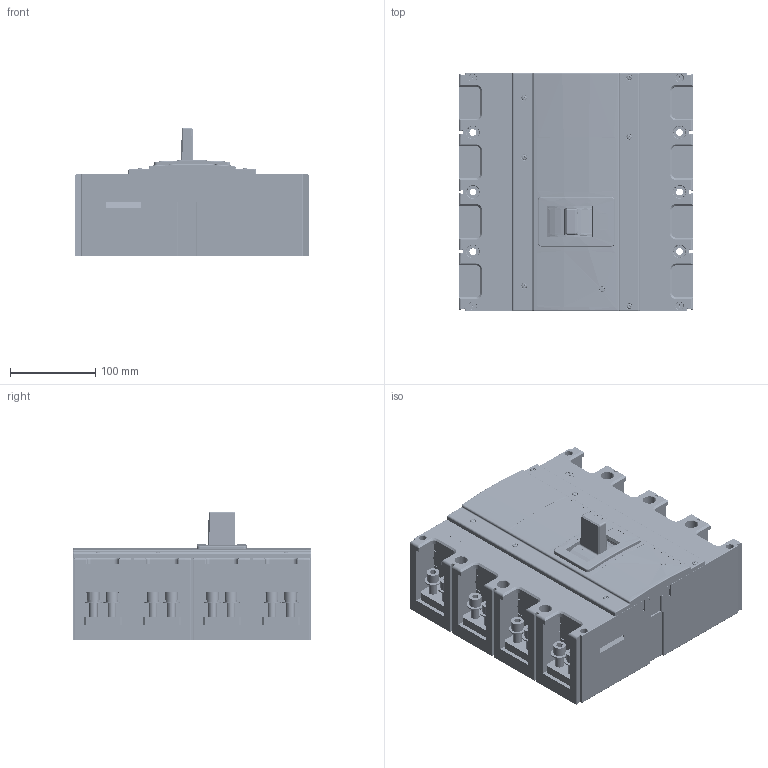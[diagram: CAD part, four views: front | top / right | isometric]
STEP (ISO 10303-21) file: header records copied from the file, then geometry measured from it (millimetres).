
FILE_DESCRIPTION(/* description */ (''),/* implementation_level */ '2;1');
FILE_NAME(/* name */ 'model1.stp',/* time_stamp */ '2024-02-21T13:26:25+08:00',/* author */ (''),/* organization */ (''),/* preprocessor_version */ 'ST-DEVELOPER v11',/* originating_system */ 'SIEMENS UGS NX 6.0',/* authorisation */ '');
FILE_SCHEMA (('CONFIG_CONTROL_DESIGN'));
Products named in the file (1): Admi1C706xpx
Bounding box: 275.5 x 280 x 151.31 mm (x, y, z)
Volume: 4166238.7 mm3; surface area: 1062928.2 mm2
Topology: 88 solids, 123 shells, 6231 faces, 16702 edges, 10920 vertices
Faces by surface type: plane 4013, cylinder 1618, torus 177, bspline 168, cone 118, extrusion 105, sphere 30, revolution 2
Full cylindrical faces by diameter (mm): 2.659 x5, 3 x7, 3.15 x6, 3.354 x126, 3.4 x2, 3.5 x14, 4 x5, 4.2 x24, 4.48 x4, 4.6 x10, 5 x12, 5.1 x4, 5.3 x16, 5.5 x33, 5.8 x2, 5.85 x12, 6 x3, 6.2 x9, 6.3 x1, 6.5 x6, 6.6 x1, 7 x58, 7.4 x1, 7.5 x22, 8 x7, 8.2 x8, 8.4 x8, 8.5 x4, 8.6 x4, 8.64 x1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
Entity records: 284505 total; most frequent: CARTESIAN_POINT 135206, ORIENTED_EDGE 30880, DIRECTION 29726, EDGE_CURVE 15440, VECTOR 10690, LINE 10585, VERTEX_POINT 10431, AXIS2_PLACEMENT_3D 9517
